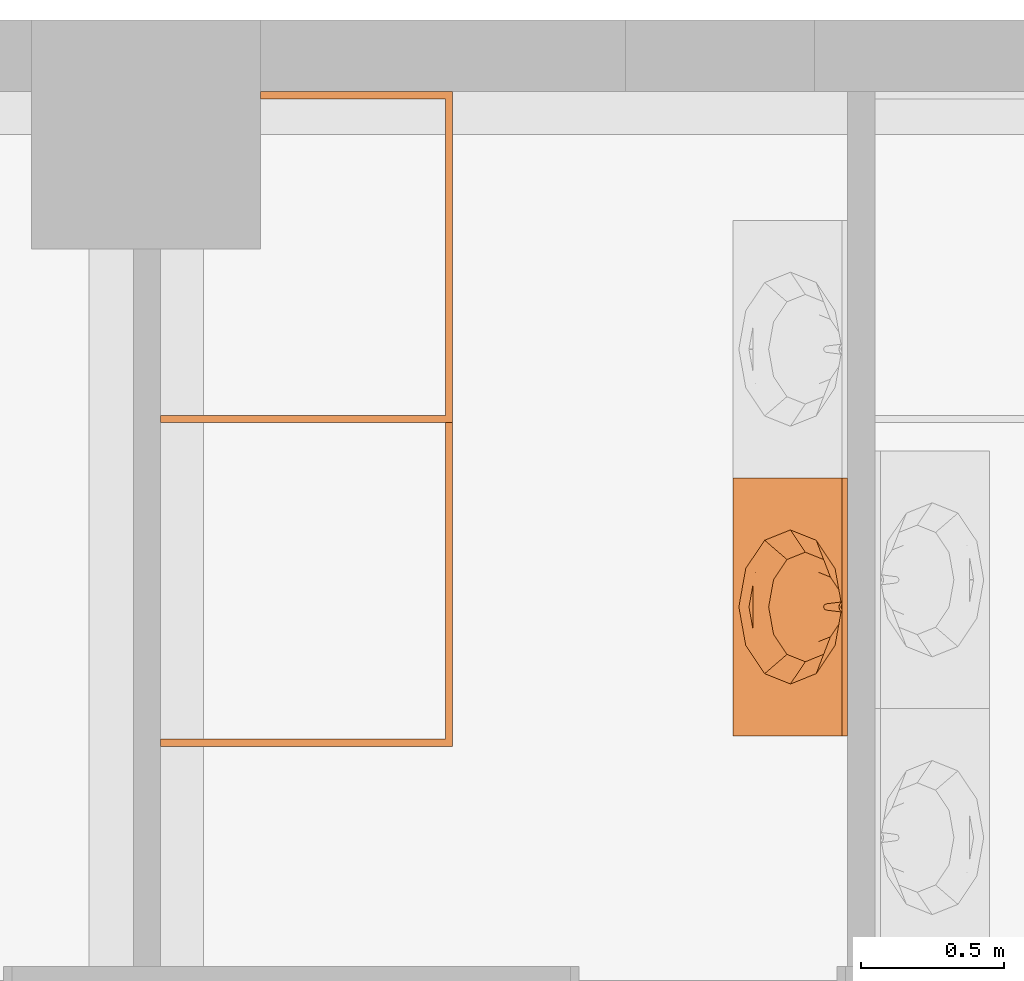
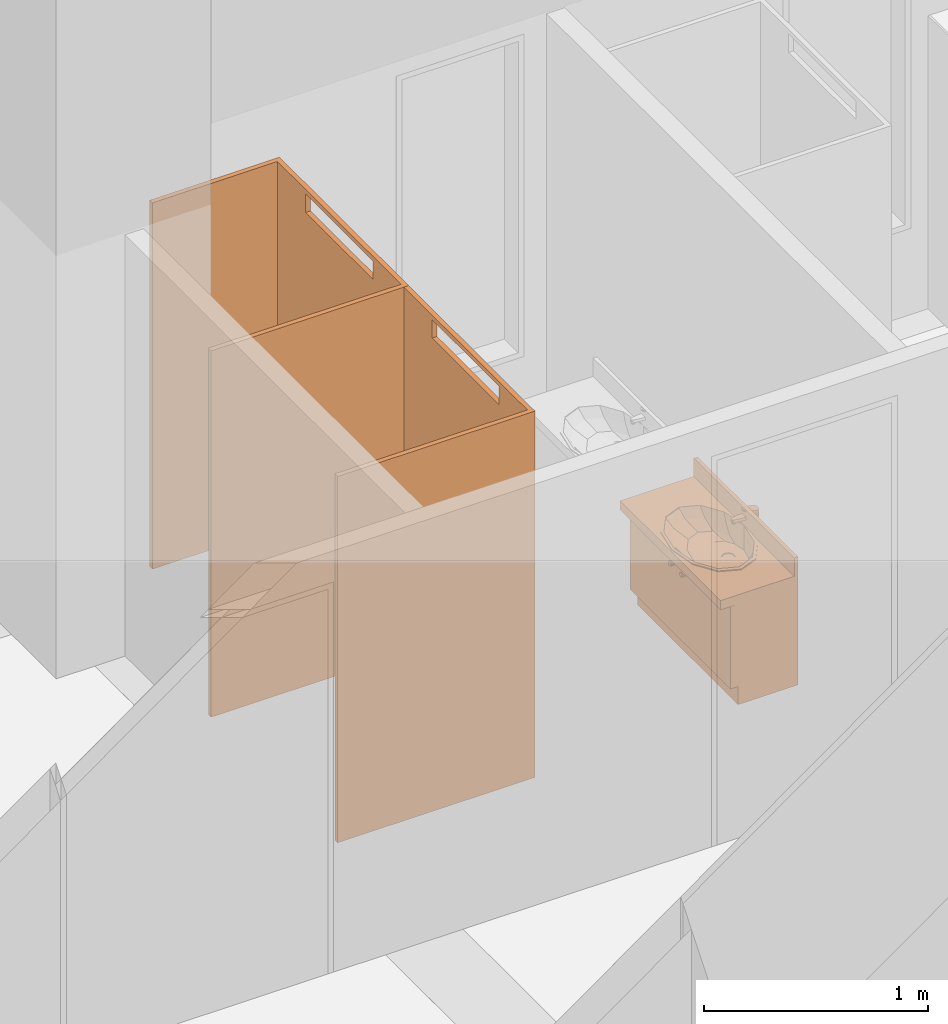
# One storey, part 10 of 14: 3 proxies.
"""IFC2X3 building model written with IfcOpenShell, lengths in millimetres."""

from ifc_helpers import new_model, entity, si_unit, converted_unit, direction, frame, origin_with_axes, place, context, project, spatial, open_shell, faceted_brep, surface_model, material, element, save


model = new_model("IFC2X3")

# Units and contexts
model_context = context("Model", 3, precision=1e-05, world=origin_with_axes(), true_north=direction((0.0, 1.0)))
ifc_project = project(units=[si_unit("LENGTHUNIT", "METRE", prefix="MILLI"), si_unit("AREAUNIT", "SQUARE_METRE"), si_unit("VOLUMEUNIT", "CUBIC_METRE"), converted_unit("PLANEANGLEUNIT", "DEGREE", entity("IfcPlaneAngleMeasure", 0.017453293), si_unit("PLANEANGLEUNIT", "RADIAN"), dimensions=[0, 0, 0, 0, 0, 0, 0]), si_unit("SOLIDANGLEUNIT", "STERADIAN"), si_unit("MASSUNIT", "GRAM"), si_unit("TIMEUNIT", "SECOND"), si_unit("THERMODYNAMICTEMPERATUREUNIT", "DEGREE_CELSIUS"), si_unit("LUMINOUSINTENSITYUNIT", "LUMEN")], contexts=[model_context])

# Site, building, storey
site_placement = place(None, origin_with_axes())
site = spatial("IfcSite", under=ifc_project, at=site_placement, Name="\x83T\x83C\x83g", CompositionType="ELEMENT")
building_placement = place(site_placement, origin_with_axes())
building = spatial("IfcBuilding", under=site, at=building_placement, Name="Daitec-Sample 201208", CompositionType="ELEMENT")
storey_placement = place(building_placement, frame((0.0, 0.0, 4000.0), z_axis=(0.0, 0.0, 1.0), x_axis=(1.0, 0.0, 0.0)))
storey = spatial("IfcBuildingStorey", under=building, at=storey_placement, Name="2F", CompositionType="ELEMENT", Elevation=4000.0)

# Proxies
ifc_material = material(Name="\x94w\x8ci")
proxy_1_placement = place(storey_placement, frame((19570.72, 21263.708, 0.0), z_axis=(0.0, 0.0, 1.0), x_axis=(0.0, 1.0, 0.0)))
element("IfcBuildingElementProxy", 1, at=proxy_1_placement, inside=storey, material=ifc_material, Name="O0", CompositionType="ELEMENT", context=model_context, shape_type="Brep", body=[
    faceted_brep([(0.0, 0.0, 200.0), (277.82295, 0.0, 200.0), (277.82295, 0.0, 1975.0), (0.0, 0.0, 1975.0), (0.0, 25.0, 200.0), (277.82295, 25.0, 200.0), (277.82295, 25.0, 1975.0), (0.0, 25.0, 1975.0)], [[[0, 1, 2, 3]], [[0, 4, 5, 1]], [[1, 5, 6, 2]], [[3, 2, 6, 7]], [[4, 0, 3, 7]], [[5, 4, 7, 6]]]),
    faceted_brep([(877.82295, 0.0, 200.0), (1155.6459, 0.0, 200.0), (1155.6459, 0.0, 1975.0), (877.82295, 0.0, 1975.0), (877.82295, 25.0, 200.0), (1155.6459, 25.0, 200.0), (1155.6459, 25.0, 1975.0), (877.82295, 25.0, 1975.0)], [[[0, 1, 2, 3]], [[0, 4, 5, 1]], [[1, 5, 6, 2]], [[3, 2, 6, 7]], [[4, 0, 3, 7]], [[5, 4, 7, 6]]]),
    faceted_brep([(0.0, 0.0, 0.0), (277.82295, 0.0, 0.0), (277.82295, 0.0, 200.0), (0.0, 0.0, 200.0), (0.0, 25.0, 0.0), (277.82295, 25.0, 0.0), (277.82295, 25.0, 200.0), (0.0, 25.0, 200.0)], [[[0, 1, 2, 3]], [[0, 4, 5, 1]], [[1, 5, 6, 2]], [[3, 2, 6, 7]], [[4, 0, 3, 7]], [[5, 4, 7, 6]]]),
    faceted_brep([(877.82295, 0.0, 0.0), (1155.6459, 0.0, 0.0), (1155.6459, 0.0, 200.0), (877.82295, 0.0, 200.0), (877.82295, 25.0, 0.0), (1155.6459, 25.0, 0.0), (1155.6459, 25.0, 200.0), (877.82295, 25.0, 200.0)], [[[0, 1, 2, 3]], [[0, 4, 5, 1]], [[1, 5, 6, 2]], [[3, 2, 6, 7]], [[4, 0, 3, 7]], [[5, 4, 7, 6]]]),
    faceted_brep([(1155.6459, 0.0, 1975.0), (1155.6459, 25.0, 1975.0), (1155.6459, 25.0, 2000.0), (1155.6459, 0.0, 2000.0), (0.0, 0.0, 1975.0), (0.0, 25.0, 1975.0), (0.0, 25.0, 2000.0), (0.0, 0.0, 2000.0)], [[[0, 1, 2, 3]], [[0, 4, 5, 1]], [[1, 5, 6, 2]], [[3, 2, 6, 7]], [[4, 0, 3, 7]], [[5, 4, 7, 6]]]),
    faceted_brep([(277.82295, 0.0, 50.0), (877.82295, 0.0, 50.0), (877.82295, 0.0, 1875.0), (277.82295, 0.0, 1875.0), (277.82295, 25.0, 50.0), (877.82295, 25.0, 50.0), (877.82295, 25.0, 1875.0), (277.82295, 25.0, 1875.0)], [[[0, 1, 2, 3]], [[0, 4, 5, 1]], [[1, 5, 6, 2]], [[3, 2, 6, 7]], [[4, 0, 3, 7]], [[5, 4, 7, 6]]]),
    faceted_brep([(25.0, 25.0, 0.0), (25.0, 1019.9703, 0.0), (25.0, 1019.9703, 2000.0), (25.0, 25.0, 2000.0), (0.0, 25.0, 0.0), (0.0, 1019.9703, 0.0), (0.0, 1019.9703, 2000.0), (0.0, 25.0, 2000.0)], [[[0, 1, 2, 3]], [[0, 4, 5, 1]], [[1, 5, 6, 2]], [[3, 2, 6, 7]], [[4, 0, 3, 7]], [[5, 4, 7, 6]]]),
    faceted_brep([(25.0, 25.0, 1775.0), (25.0, 1019.9703, 1775.0), (25.0, 1019.9703, 1800.0), (25.0, 25.0, 1800.0), (0.0, 25.0, 1775.0), (0.0, 1019.9703, 1775.0), (0.0, 1019.9703, 1800.0), (0.0, 25.0, 1800.0)], [[[0, 1, 2, 3]], [[0, 4, 5, 1]], [[1, 5, 6, 2]], [[3, 2, 6, 7]], [[4, 0, 3, 7]], [[5, 4, 7, 6]]]),
    faceted_brep([(1155.6459, 25.0, 0.0), (1155.6459, 1019.9703, 0.0), (1155.6459, 1019.9703, 2000.0), (1155.6459, 25.0, 2000.0), (1130.6459, 25.0, 0.0), (1130.6459, 1019.9703, 0.0), (1130.6459, 1019.9703, 2000.0), (1130.6459, 25.0, 2000.0)], [[[0, 1, 2, 3]], [[0, 4, 5, 1]], [[1, 5, 6, 2]], [[3, 2, 6, 7]], [[4, 0, 3, 7]], [[5, 4, 7, 6]]]),
    faceted_brep([(1155.6459, 25.0, 1775.0), (1155.6459, 1019.9703, 1775.0), (1155.6459, 1019.9703, 1800.0), (1155.6459, 25.0, 1800.0), (1130.6459, 25.0, 1775.0), (1130.6459, 1019.9703, 1775.0), (1130.6459, 1019.9703, 1800.0), (1130.6459, 25.0, 1800.0)], [[[0, 1, 2, 3]], [[0, 4, 5, 1]], [[1, 5, 6, 2]], [[3, 2, 6, 7]], [[4, 0, 3, 7]], [[5, 4, 7, 6]]]),
])
proxy_2_placement = place(storey_placement, frame((19570.72, 22394.354, 0.0), z_axis=(0.0, 0.0, 1.0), x_axis=(0.0, 1.0, 0.0)))
element("IfcBuildingElementProxy", 2, at=proxy_2_placement, inside=storey, material=ifc_material, Name="O0", CompositionType="ELEMENT", context=model_context, shape_type="Brep", body=[
    faceted_brep([(0.0, 0.0, 200.0), (277.82295, 0.0, 200.0), (277.82295, 0.0, 1975.0), (0.0, 0.0, 1975.0), (0.0, 25.0, 200.0), (277.82295, 25.0, 200.0), (277.82295, 25.0, 1975.0), (0.0, 25.0, 1975.0)], [[[0, 1, 2, 3]], [[0, 4, 5, 1]], [[1, 5, 6, 2]], [[3, 2, 6, 7]], [[4, 0, 3, 7]], [[5, 4, 7, 6]]]),
    faceted_brep([(877.82295, 0.0, 200.0), (1155.6459, 0.0, 200.0), (1155.6459, 0.0, 1975.0), (877.82295, 0.0, 1975.0), (877.82295, 25.0, 200.0), (1155.6459, 25.0, 200.0), (1155.6459, 25.0, 1975.0), (877.82295, 25.0, 1975.0)], [[[0, 1, 2, 3]], [[0, 4, 5, 1]], [[1, 5, 6, 2]], [[3, 2, 6, 7]], [[4, 0, 3, 7]], [[5, 4, 7, 6]]]),
    faceted_brep([(0.0, 0.0, 0.0), (277.82295, 0.0, 0.0), (277.82295, 0.0, 200.0), (0.0, 0.0, 200.0), (0.0, 25.0, 0.0), (277.82295, 25.0, 0.0), (277.82295, 25.0, 200.0), (0.0, 25.0, 200.0)], [[[0, 1, 2, 3]], [[0, 4, 5, 1]], [[1, 5, 6, 2]], [[3, 2, 6, 7]], [[4, 0, 3, 7]], [[5, 4, 7, 6]]]),
    faceted_brep([(877.82295, 0.0, 0.0), (1155.6459, 0.0, 0.0), (1155.6459, 0.0, 200.0), (877.82295, 0.0, 200.0), (877.82295, 25.0, 0.0), (1155.6459, 25.0, 0.0), (1155.6459, 25.0, 200.0), (877.82295, 25.0, 200.0)], [[[0, 1, 2, 3]], [[0, 4, 5, 1]], [[1, 5, 6, 2]], [[3, 2, 6, 7]], [[4, 0, 3, 7]], [[5, 4, 7, 6]]]),
    faceted_brep([(1155.6459, 0.0, 1975.0), (1155.6459, 25.0, 1975.0), (1155.6459, 25.0, 2000.0), (1155.6459, 0.0, 2000.0), (0.0, 0.0, 1975.0), (0.0, 25.0, 1975.0), (0.0, 25.0, 2000.0), (0.0, 0.0, 2000.0)], [[[0, 1, 2, 3]], [[0, 4, 5, 1]], [[1, 5, 6, 2]], [[3, 2, 6, 7]], [[4, 0, 3, 7]], [[5, 4, 7, 6]]]),
    faceted_brep([(277.82295, 0.0, 50.0), (877.82295, 0.0, 50.0), (877.82295, 0.0, 1875.0), (277.82295, 0.0, 1875.0), (277.82295, 25.0, 50.0), (877.82295, 25.0, 50.0), (877.82295, 25.0, 1875.0), (277.82295, 25.0, 1875.0)], [[[0, 1, 2, 3]], [[0, 4, 5, 1]], [[1, 5, 6, 2]], [[3, 2, 6, 7]], [[4, 0, 3, 7]], [[5, 4, 7, 6]]]),
    faceted_brep([(25.0, 25.0, 0.0), (25.0, 1019.9703, 0.0), (25.0, 1019.9703, 2000.0), (25.0, 25.0, 2000.0), (0.0, 25.0, 0.0), (0.0, 1019.9703, 0.0), (0.0, 1019.9703, 2000.0), (0.0, 25.0, 2000.0)], [[[0, 1, 2, 3]], [[0, 4, 5, 1]], [[1, 5, 6, 2]], [[3, 2, 6, 7]], [[4, 0, 3, 7]], [[5, 4, 7, 6]]]),
    faceted_brep([(25.0, 25.0, 1775.0), (25.0, 1019.9703, 1775.0), (25.0, 1019.9703, 1800.0), (25.0, 25.0, 1800.0), (0.0, 25.0, 1775.0), (0.0, 1019.9703, 1775.0), (0.0, 1019.9703, 1800.0), (0.0, 25.0, 1800.0)], [[[0, 1, 2, 3]], [[0, 4, 5, 1]], [[1, 5, 6, 2]], [[3, 2, 6, 7]], [[4, 0, 3, 7]], [[5, 4, 7, 6]]]),
    faceted_brep([(1155.6459, 25.0, 0.0), (1155.6459, 670.22795, 0.0), (1155.6459, 670.22795, 2000.0), (1155.6459, 25.0, 2000.0), (1130.6459, 25.0, 0.0), (1130.6459, 670.22795, 0.0), (1130.6459, 670.22795, 2000.0), (1130.6459, 25.0, 2000.0)], [[[0, 1, 2, 3]], [[0, 4, 5, 1]], [[1, 5, 6, 2]], [[3, 2, 6, 7]], [[4, 0, 3, 7]], [[5, 4, 7, 6]]]),
    faceted_brep([(1155.6459, 25.0, 1775.0), (1155.6459, 670.22795, 1775.0), (1155.6459, 670.22795, 1800.0), (1155.6459, 25.0, 1800.0), (1130.6459, 25.0, 1775.0), (1130.6459, 670.22795, 1775.0), (1130.6459, 670.22795, 1800.0), (1130.6459, 25.0, 1800.0)], [[[0, 1, 2, 3]], [[0, 4, 5, 1]], [[1, 5, 6, 2]], [[3, 2, 6, 7]], [[4, 0, 3, 7]], [[5, 4, 7, 6]]]),
])
proxy_3_placement = place(storey_placement, frame((20550.071, 21300.379, 0.0), z_axis=(0.0, 0.0, 1.0), x_axis=(0.0, -1.0, 0.0)))
element("IfcBuildingElementProxy", 3, at=proxy_3_placement, inside=storey, material=ifc_material, Name="O2", context=model_context, shape_type="Brep", body=[
    faceted_brep([(0.0, 90.0, 0.0), (0.0, 90.0, 100.0), (-900.0, 90.0, 100.0), (-900.0, 90.0, 0.0), (0.0, 400.0, 0.0), (0.0, 400.0, 100.0), (-900.0, 400.0, 100.0), (-900.0, 400.0, 0.0)], [[[0, 1, 2, 3]], [[4, 5, 1, 0]], [[1, 5, 6, 2]], [[3, 2, 6, 7]], [[0, 3, 7, 4]], [[7, 6, 5, 4]]]),
    faceted_brep([(0.0, 70.0, 100.0), (0.0, 70.0, 120.0), (-20.0, 70.0, 120.0), (-20.0, 70.0, 100.0), (0.0, 400.0, 100.0), (0.0, 400.0, 120.0), (-20.0, 400.0, 120.0), (-880.0, 400.0, 120.0), (-900.0, 400.0, 120.0), (-900.0, 70.0, 120.0), (-880.0, 70.0, 120.0), (-880.0, 70.0, 100.0), (-900.0, 70.0, 100.0), (-900.0, 400.0, 100.0), (-880.0, 400.0, 100.0), (-20.0, 400.0, 100.0)], [[[0, 1, 2, 3]], [[4, 5, 1, 0]], [[1, 5, 6, 7, 8, 9, 10, 2]], [[3, 2, 10, 11]], [[0, 3, 11, 12, 13, 14, 15, 4]], [[15, 6, 5, 4]], [[14, 7, 6, 15]], [[13, 8, 7, 14]], [[12, 9, 8, 13]], [[11, 10, 9, 12]]]),
    faceted_brep([(0.0, 70.0, 120.0), (0.0, 70.0, 550.0), (-20.0, 70.0, 550.0), (-20.0, 70.0, 120.0), (0.0, 400.0, 120.0), (0.0, 400.0, 550.0), (-900.0, 400.0, 550.0), (-900.0, 70.0, 550.0), (-880.0, 70.0, 550.0), (-880.0, 380.0, 550.0), (-20.0, 380.0, 550.0), (-20.0, 380.0, 120.0), (-880.0, 380.0, 120.0), (-880.0, 70.0, 120.0), (-900.0, 70.0, 120.0), (-900.0, 400.0, 120.0)], [[[0, 1, 2, 3]], [[4, 5, 1, 0]], [[1, 5, 6, 7, 8, 9, 10, 2]], [[3, 2, 10, 11]], [[0, 3, 11, 12, 13, 14, 15, 4]], [[15, 6, 5, 4]], [[14, 7, 6, 15]], [[13, 8, 7, 14]], [[12, 9, 8, 13]], [[11, 10, 9, 12]]]),
    faceted_brep([(-880.0, 70.0, 223.33333), (-880.0, 70.0, 243.33333), (-880.0, 380.0, 243.33333), (-880.0, 380.0, 223.33333), (-20.0, 70.0, 223.33333), (-20.0, 70.0, 243.33333), (-20.0, 380.0, 243.33333), (-20.0, 380.0, 223.33333)], [[[0, 1, 2, 3]], [[4, 5, 1, 0]], [[1, 5, 6, 2]], [[3, 2, 6, 7]], [[0, 3, 7, 4]], [[7, 6, 5, 4]]]),
    faceted_brep([(-880.0, 70.0, 366.66667), (-880.0, 70.0, 386.66667), (-880.0, 380.0, 386.66667), (-880.0, 380.0, 366.66667), (-20.0, 70.0, 366.66667), (-20.0, 70.0, 386.66667), (-20.0, 380.0, 386.66667), (-20.0, 380.0, 366.66667)], [[[0, 1, 2, 3]], [[4, 5, 1, 0]], [[1, 5, 6, 2]], [[3, 2, 6, 7]], [[0, 3, 7, 4]], [[7, 6, 5, 4]]]),
    faceted_brep([(0.0, 400.0, 550.0), (0.0, 0.0, 550.0), (-900.0, 0.0, 550.0), (-900.0, 400.0, 550.0), (-216.17314, 290.0, 550.0), (-315.0, 355.88457, 550.0), (-450.0, 380.0, 550.0), (-585.0, 355.88457, 550.0), (-683.82686, 290.0, 550.0), (-720.0, 200.0, 550.0), (-683.82686, 110.0, 550.0), (-585.0, 44.115427, 550.0), (-450.0, 20.0, 550.0), (-315.0, 44.115427, 550.0), (-216.17314, 110.0, 550.0), (-180.0, 200.0, 550.0), (0.0, 400.0, 600.0), (0.0, 0.0, 600.0), (-900.0, 0.0, 600.0), (-900.0, 400.0, 600.0), (-216.17314, 290.0, 600.0), (-315.0, 355.88457, 600.0), (-450.0, 380.0, 600.0), (-585.0, 355.88457, 600.0), (-683.82686, 290.0, 600.0), (-720.0, 200.0, 600.0), (-683.82686, 110.0, 600.0), (-585.0, 44.115427, 600.0), (-450.0, 20.0, 600.0), (-315.0, 44.115427, 600.0), (-216.17314, 110.0, 600.0), (-180.0, 200.0, 600.0)], [[[0, 1, 2, 3], [4, 5, 6, 7, 8, 9, 10, 11, 12, 13, 14, 15]], [[1, 0, 16, 17]], [[2, 1, 17, 18]], [[3, 2, 18, 19]], [[0, 3, 19, 16]], [[20, 21, 5, 4]], [[21, 22, 6, 5]], [[22, 23, 7, 6]], [[23, 24, 8, 7]], [[24, 25, 9, 8]], [[25, 26, 10, 9]], [[26, 27, 11, 10]], [[27, 28, 12, 11]], [[28, 29, 13, 12]], [[29, 30, 14, 13]], [[30, 31, 15, 14]], [[31, 20, 4, 15]], [[18, 17, 16, 19], [24, 23, 22, 21, 20, 31, 30, 29, 28, 27, 26, 25]]]),
    faceted_brep([(0.0, 380.0, 600.0), (0.0, 380.0, 700.0), (-900.0, 380.0, 700.0), (-900.0, 380.0, 600.0), (0.0, 400.0, 600.0), (0.0, 400.0, 700.0), (-900.0, 400.0, 700.0), (-900.0, 400.0, 600.0)], [[[0, 1, 2, 3]], [[4, 5, 1, 0]], [[1, 5, 6, 2]], [[3, 2, 6, 7]], [[0, 3, 7, 4]], [[7, 6, 5, 4]]]),
    faceted_brep([(-739.0, 200.0, 605.0), (-700.28134, 296.69145, 605.0), (-700.28134, 296.69145, 600.0), (-739.0, 200.0, 600.0), (-700.28134, 103.30855, 605.0), (-594.5, 32.525496, 605.0), (-450.0, 6.6171004, 605.0), (-305.5, 32.525496, 605.0), (-199.71866, 103.30855, 605.0), (-161.0, 200.0, 605.0), (-199.71866, 296.69145, 605.0), (-305.5, 367.4745, 605.0), (-450.0, 393.3829, 605.0), (-594.5, 367.4745, 605.0), (-719.0, 200.0, 605.0), (-682.96083, 290.0, 605.0), (-584.5, 355.88457, 605.0), (-450.0, 380.0, 605.0), (-315.5, 355.88457, 605.0), (-217.03917, 290.0, 605.0), (-181.0, 200.0, 605.0), (-217.03917, 110.0, 605.0), (-315.5, 44.115427, 605.0), (-450.0, 20.0, 605.0), (-584.5, 44.115427, 605.0), (-682.96083, 110.0, 605.0), (-594.5, 367.4745, 600.0), (-450.0, 393.3829, 600.0), (-305.5, 367.4745, 600.0), (-199.71866, 296.69145, 600.0), (-161.0, 200.0, 600.0), (-199.71866, 103.30855, 600.0), (-305.5, 32.525496, 600.0), (-450.0, 6.6171004, 600.0), (-594.5, 32.525496, 600.0), (-700.28134, 103.30855, 600.0), (-719.0, 200.0, 600.0), (-682.96083, 110.0, 600.0), (-584.5, 44.115427, 600.0), (-450.0, 20.0, 600.0), (-315.5, 44.115427, 600.0), (-217.03917, 110.0, 600.0), (-181.0, 200.0, 600.0), (-217.03917, 290.0, 600.0), (-315.5, 355.88457, 600.0), (-450.0, 380.0, 600.0), (-584.5, 355.88457, 600.0), (-682.96083, 290.0, 600.0)], [[[0, 1, 2, 3]], [[0, 4, 5, 6, 7, 8, 9, 10, 11, 12, 13, 1], [14, 15, 16, 17, 18, 19, 20, 21, 22, 23, 24, 25]], [[1, 13, 26, 2]], [[3, 2, 26, 27, 28, 29, 30, 31, 32, 33, 34, 35], [36, 37, 38, 39, 40, 41, 42, 43, 44, 45, 46, 47]], [[4, 0, 3, 35]], [[5, 4, 35, 34]], [[6, 5, 34, 33]], [[7, 6, 33, 32]], [[8, 7, 32, 31]], [[9, 8, 31, 30]], [[10, 9, 30, 29]], [[11, 10, 29, 28]], [[12, 11, 28, 27]], [[13, 12, 27, 26]], [[15, 14, 36, 47]], [[16, 15, 47, 46]], [[17, 16, 46, 45]], [[18, 17, 45, 44]], [[19, 18, 44, 43]], [[20, 19, 43, 42]], [[21, 20, 42, 41]], [[22, 21, 41, 40]], [[23, 22, 40, 39]], [[24, 23, 39, 38]], [[25, 24, 38, 37]], [[14, 25, 37, 36]]]),
    surface_model("IfcShellBasedSurfaceModel", [(-450.0, 380.0, 600.0), (-584.5, 355.88457, 600.0), (-571.05, 358.29612, 548.0), (-450.0, 380.0, 548.0), (-682.96083, 290.0, 600.0), (-659.66475, 299.0, 548.0), (-315.5, 355.88457, 600.0), (-328.95, 358.29612, 548.0), (-719.0, 200.0, 600.0), (-692.1, 218.0, 548.0), (-217.03917, 290.0, 600.0), (-240.33525, 299.0, 548.0), (-682.96083, 110.0, 600.0), (-659.66475, 137.0, 548.0), (-181.0, 200.0, 600.0), (-207.9, 218.0, 548.0), (-584.5, 44.115427, 600.0), (-571.05, 77.703885, 548.0), (-217.03917, 110.0, 600.0), (-240.33525, 137.0, 548.0), (-450.0, 20.0, 600.0), (-450.0, 56.0, 548.0), (-315.5, 44.115427, 600.0), (-328.95, 77.703885, 548.0)], [open_shell([[[0, 1, 2, 3]], [[1, 4, 5, 2]], [[6, 0, 3, 7]], [[4, 8, 9, 5]], [[10, 6, 7, 11]], [[8, 12, 13, 9]], [[14, 10, 11, 15]], [[12, 16, 17, 13]], [[18, 14, 15, 19]], [[16, 20, 21, 17]], [[22, 18, 19, 23]], [[20, 22, 23, 21]]])]),
    surface_model("IfcShellBasedSurfaceModel", [(-450.0, 380.0, 548.0), (-571.05, 358.29612, 548.0), (-545.6295, 362.85393, 496.0), (-450.0, 380.0, 496.0), (-659.66475, 299.0, 548.0), (-615.63515, 316.01, 496.0), (-328.95, 358.29612, 548.0), (-354.3705, 362.85393, 496.0), (-692.1, 218.0, 548.0), (-641.259, 252.02, 496.0), (-240.33525, 299.0, 548.0), (-284.36485, 316.01, 496.0), (-659.66475, 137.0, 548.0), (-615.63515, 188.03, 496.0), (-207.9, 218.0, 548.0), (-258.741, 252.02, 496.0), (-571.05, 77.703885, 548.0), (-545.6295, 141.18607, 496.0), (-240.33525, 137.0, 548.0), (-284.36485, 188.03, 496.0), (-450.0, 56.0, 548.0), (-450.0, 124.04, 496.0), (-328.95, 77.703885, 548.0), (-354.3705, 141.18607, 496.0)], [open_shell([[[0, 1, 2, 3]], [[1, 4, 5, 2]], [[6, 0, 3, 7]], [[4, 8, 9, 5]], [[10, 6, 7, 11]], [[8, 12, 13, 9]], [[14, 10, 11, 15]], [[12, 16, 17, 13]], [[18, 14, 15, 19]], [[16, 20, 21, 17]], [[22, 18, 19, 23]], [[20, 22, 23, 21]]])]),
    surface_model("IfcShellBasedSurfaceModel", [(-450.0, 380.0, 496.0), (-545.6295, 362.85393, 496.0), (-510.24659, 369.19798, 470.0), (-450.0, 380.0, 470.0), (-615.63515, 316.01, 496.0), (-554.35015, 339.6863, 470.0), (-354.3705, 362.85393, 496.0), (-389.75341, 369.19798, 470.0), (-641.259, 252.02, 496.0), (-570.49317, 299.3726, 470.0), (-284.36485, 316.01, 496.0), (-345.64985, 339.6863, 470.0), (-615.63515, 188.03, 496.0), (-554.35015, 259.0589, 470.0), (-258.741, 252.02, 496.0), (-329.50683, 299.3726, 470.0), (-545.6295, 141.18607, 496.0), (-510.24659, 229.54722, 470.0), (-284.36485, 188.03, 496.0), (-345.64985, 259.0589, 470.0), (-450.0, 124.04, 496.0), (-450.0, 218.7452, 470.0), (-354.3705, 141.18607, 496.0), (-389.75341, 229.54722, 470.0)], [open_shell([[[0, 1, 2, 3]], [[1, 4, 5, 2]], [[6, 0, 3, 7]], [[4, 8, 9, 5]], [[10, 6, 7, 11]], [[8, 12, 13, 9]], [[14, 10, 11, 15]], [[12, 16, 17, 13]], [[18, 14, 15, 19]], [[16, 20, 21, 17]], [[22, 18, 19, 23]], [[20, 22, 23, 21]]])]),
    surface_model("IfcShellBasedSurfaceModel", [(-450.0, 380.0, 470.0), (-510.24659, 369.19798, 470.0), (-465.0, 325.35336, 463.0), (-475.98076, 314.3726, 463.0), (-450.0, 329.3726, 463.0), (-554.35015, 339.6863, 470.0), (-389.75341, 369.19798, 470.0), (-480.0, 299.3726, 463.0), (-435.0, 325.35336, 463.0), (-570.49317, 299.3726, 470.0), (-345.64985, 339.6863, 470.0), (-475.98076, 284.3726, 463.0), (-424.01924, 314.3726, 463.0), (-554.35015, 259.0589, 470.0), (-329.50683, 299.3726, 470.0), (-465.0, 273.39184, 463.0), (-420.0, 299.3726, 463.0), (-510.24659, 229.54722, 470.0), (-345.64985, 259.0589, 470.0), (-450.0, 269.3726, 463.0), (-424.01924, 284.3726, 463.0), (-450.0, 218.7452, 470.0), (-389.75341, 229.54722, 470.0), (-435.0, 273.39184, 463.0)], [open_shell([[[0, 1, 2]], [[1, 3, 2]], [[0, 2, 4]], [[1, 5, 3]], [[6, 0, 4]], [[5, 7, 3]], [[6, 4, 8]], [[5, 9, 7]], [[10, 6, 8]], [[9, 11, 7]], [[10, 8, 12]], [[9, 13, 11]], [[14, 10, 12]], [[13, 15, 11]], [[14, 12, 16]], [[13, 17, 15]], [[18, 14, 16]], [[17, 19, 15]], [[18, 16, 20]], [[17, 21, 19]], [[22, 18, 20]], [[21, 23, 19]], [[22, 20, 23]], [[21, 22, 23]]])]),
    surface_model("IfcShellBasedSurfaceModel", [(-480.0, 299.3726, 463.0), (-475.98076, 314.3726, 463.0), (-475.98076, 314.3726, 458.0), (-480.0, 299.3726, 458.0), (-465.0, 325.35336, 463.0), (-465.0, 325.35336, 458.0), (-450.0, 329.3726, 458.0), (-435.0, 325.35336, 458.0), (-424.01924, 314.3726, 458.0), (-420.0, 299.3726, 458.0), (-424.01924, 284.3726, 458.0), (-435.0, 273.39184, 458.0), (-450.0, 269.3726, 458.0), (-465.0, 273.39184, 458.0), (-475.98076, 284.3726, 458.0), (-475.98076, 284.3726, 463.0), (-450.0, 329.3726, 463.0), (-435.0, 325.35336, 463.0), (-424.01924, 314.3726, 463.0), (-420.0, 299.3726, 463.0), (-424.01924, 284.3726, 463.0), (-435.0, 273.39184, 463.0), (-450.0, 269.3726, 463.0), (-465.0, 273.39184, 463.0)], [open_shell([[[0, 1, 2, 3]], [[1, 4, 5, 2]], [[3, 2, 5, 6, 7, 8, 9, 10, 11, 12, 13, 14]], [[15, 0, 3, 14]], [[4, 16, 6, 5]], [[16, 17, 7, 6]], [[17, 18, 8, 7]], [[18, 19, 9, 8]], [[19, 20, 10, 9]], [[20, 21, 11, 10]], [[21, 22, 12, 11]], [[22, 23, 13, 12]], [[23, 15, 14, 13]]])]),
    faceted_brep([(-462.5, 451.65064, 600.0), (-460.58732, 448.33778, 676.50709), (-450.0, 451.20192, 675.96154), (-450.0, 455.0, 600.0), (-471.65064, 442.5, 600.0), (-468.27355, 440.55024, 677.99043), (-471.0, 430.0, 680.0), (-468.10034, 419.54976, 681.99052), (-460.41411, 411.96224, 683.43576), (-450.0, 409.19811, 683.96226), (-439.58589, 411.96224, 683.43576), (-431.89966, 419.54976, 681.99052), (-429.0, 430.0, 680.0), (-431.72645, 440.55024, 677.99043), (-439.41268, 448.33778, 676.50709), (-437.5, 451.65064, 600.0), (-428.34936, 442.5, 600.0), (-425.0, 430.0, 600.0), (-428.34936, 417.5, 600.0), (-437.5, 408.34936, 600.0), (-450.0, 405.0, 600.0), (-462.5, 408.34936, 600.0), (-471.65064, 417.5, 600.0), (-475.0, 430.0, 600.0)], [[[0, 1, 2, 3]], [[4, 5, 1, 0]], [[1, 5, 6, 7, 8, 9, 10, 11, 12, 13, 14, 2]], [[3, 2, 14, 15]], [[0, 3, 15, 16, 17, 18, 19, 20, 21, 22, 23, 4]], [[23, 6, 5, 4]], [[22, 7, 6, 23]], [[21, 8, 7, 22]], [[20, 9, 8, 21]], [[19, 10, 9, 20]], [[18, 11, 10, 19]], [[17, 12, 11, 18]], [[16, 13, 12, 17]], [[15, 14, 13, 16]]]),
    faceted_brep([(-459.0, 327.0, 635.0), (-459.0, 327.0, 645.0), (-457.79423, 331.5, 645.0), (-457.79423, 331.5, 635.0), (-457.79423, 322.5, 635.0), (-457.79423, 322.5, 645.0), (-454.5, 319.20577, 645.0), (-450.0, 318.0, 645.0), (-445.5, 319.20577, 645.0), (-442.20577, 322.5, 645.0), (-441.0, 327.0, 645.0), (-442.20577, 331.5, 645.0), (-445.5, 334.79423, 645.0), (-450.0, 336.0, 645.0), (-454.5, 334.79423, 645.0), (-454.5, 334.79423, 635.0), (-450.0, 336.0, 635.0), (-445.5, 334.79423, 635.0), (-442.20577, 331.5, 635.0), (-441.0, 327.0, 635.0), (-442.20577, 322.5, 635.0), (-445.5, 319.20577, 635.0), (-450.0, 318.0, 635.0), (-454.5, 319.20577, 635.0)], [[[0, 1, 2, 3]], [[4, 5, 1, 0]], [[1, 5, 6, 7, 8, 9, 10, 11, 12, 13, 14, 2]], [[3, 2, 14, 15]], [[0, 3, 15, 16, 17, 18, 19, 20, 21, 22, 23, 4]], [[23, 6, 5, 4]], [[22, 7, 6, 23]], [[21, 8, 7, 22]], [[20, 9, 8, 21]], [[19, 10, 9, 20]], [[18, 11, 10, 19]], [[17, 12, 11, 18]], [[16, 13, 12, 17]], [[15, 14, 13, 16]]]),
    faceted_brep([(-440.97112, 320.71681, 660.0), (-439.08801, 325.61163, 660.0), (-426.1946, 426.9501, 660.0), (-428.27219, 440.19321, 660.0), (-437.12828, 450.2563, 660.0), (-450.0, 453.99998, 660.0), (-462.87172, 450.2563, 660.0), (-471.72781, 440.1932, 660.0), (-473.8054, 426.9501, 660.0), (-460.912, 325.6117, 660.0), (-459.02892, 320.71687, 660.0), (-455.09339, 317.25031, 660.0), (-450.00004, 316.00004, 660.0), (-444.90668, 317.25027, 660.0), (-469.05256, 441.0, 660.0), (-461.0, 449.05256, 660.0), (-450.0, 452.0, 660.0), (-439.0, 449.05256, 660.0), (-430.94744, 441.0, 660.0), (-428.0, 430.0, 660.0), (-430.94744, 419.0, 660.0), (-439.0, 410.94744, 660.0), (-450.0, 408.0, 660.0), (-461.0, 410.94744, 660.0), (-469.05256, 419.0, 660.0), (-472.0, 430.0, 660.0), (-440.97112, 320.71681, 645.0), (-439.08801, 325.61163, 645.0), (-426.1946, 426.9501, 645.0), (-428.27219, 440.19321, 645.0), (-437.12828, 450.2563, 645.0), (-450.0, 453.99998, 645.0), (-462.87172, 450.2563, 645.0), (-471.72781, 440.1932, 645.0), (-473.8054, 426.9501, 645.0), (-460.912, 325.6117, 645.0), (-459.02892, 320.71687, 645.0), (-455.09339, 317.25031, 645.0), (-450.00004, 316.00004, 645.0), (-444.90668, 317.25027, 645.0), (-469.70208, 441.375, 645.0), (-461.375, 449.70208, 645.0), (-450.0, 452.75, 645.0), (-438.625, 449.70208, 645.0), (-430.29792, 441.375, 645.0), (-427.25, 430.0, 645.0), (-430.29792, 418.625, 645.0), (-438.625, 410.29792, 645.0), (-450.0, 407.25, 645.0), (-461.375, 410.29792, 645.0), (-469.70208, 418.625, 645.0), (-472.75, 430.0, 645.0)], [[[0, 1, 2, 3, 4, 5, 6, 7, 8, 9, 10, 11, 12, 13], [14, 15, 16, 17, 18, 19, 20, 21, 22, 23, 24, 25]], [[26, 27, 1, 0]], [[27, 28, 2, 1]], [[28, 29, 3, 2]], [[29, 30, 4, 3]], [[30, 31, 5, 4]], [[31, 32, 6, 5]], [[32, 33, 7, 6]], [[33, 34, 8, 7]], [[34, 35, 9, 8]], [[35, 36, 10, 9]], [[36, 37, 11, 10]], [[37, 38, 12, 11]], [[38, 39, 13, 12]], [[39, 26, 0, 13]], [[40, 41, 15, 14]], [[41, 42, 16, 15]], [[42, 43, 17, 16]], [[43, 44, 18, 17]], [[44, 45, 19, 18]], [[20, 19, 45, 46]], [[21, 20, 46, 47]], [[22, 21, 47, 48]], [[23, 22, 48, 49]], [[24, 23, 49, 50]], [[50, 51, 25, 24]], [[51, 40, 14, 25]], [[28, 27, 26, 39, 38, 37, 36, 35, 34, 33, 32, 31, 30, 29], [44, 43, 42, 41, 40, 51, 50, 49, 48, 47, 46, 45]]]),
    faceted_brep([(-473.893, 428.30743, 680.32239), (-473.893, 429.05588, 684.25175), (-471.29642, 441.52317, 681.87703), (-471.29642, 440.77472, 677.94767), (-470.94594, 388.1633, 687.9689), (-470.94594, 388.91175, 691.89825), (-467.66314, 379.23408, 693.74161), (-460.06144, 372.2847, 695.06531), (-449.99956, 369.76284, 695.54566), (-439.93779, 372.28512, 695.06523), (-432.33638, 379.23481, 693.74148), (-429.054, 388.91261, 691.89808), (-426.10698, 429.05616, 684.2517), (-428.70371, 441.52342, 681.87698), (-437.52832, 450.83965, 680.10246), (-450.00014, 454.28041, 679.44708), (-462.47192, 450.8395, 680.10249), (-464.0, 405.20765, 688.79427), (-436.0, 405.20765, 688.79427), (-436.0, 390.39202, 691.61629), (-437.87564, 383.51565, 692.92608), (-443.0, 378.48179, 693.88491), (-450.0, 376.63928, 694.23586), (-457.0, 378.48179, 693.88491), (-462.12436, 383.51565, 692.92608), (-464.0, 390.39202, 691.61629), (-462.47192, 450.09105, 676.17313), (-450.00014, 453.53196, 675.51772), (-437.52832, 450.0912, 676.17311), (-428.70371, 440.77497, 677.94763), (-426.10698, 428.30771, 680.32234), (-429.054, 388.16417, 687.96873), (-432.33638, 378.48636, 689.81212), (-439.93779, 371.53667, 691.13587), (-449.99956, 369.01439, 691.61631), (-460.06144, 371.53625, 691.13595), (-467.66314, 378.48563, 689.81226), (-464.0, 404.4592, 684.86491), (-464.0, 389.64357, 687.68694), (-462.12436, 382.7672, 688.99672), (-457.0, 377.73334, 689.95555), (-450.0, 375.89083, 690.30651), (-443.0, 377.73334, 689.95555), (-437.87564, 382.7672, 688.99672), (-436.0, 389.64357, 687.68694), (-436.0, 404.4592, 684.86491)], [[[0, 1, 2, 3]], [[4, 5, 1, 0]], [[1, 5, 6, 7, 8, 9, 10, 11, 12, 13, 14, 15, 16, 2], [17, 18, 19, 20, 21, 22, 23, 24, 25]], [[3, 2, 16, 26]], [[0, 3, 26, 27, 28, 29, 30, 31, 32, 33, 34, 35, 36, 4], [37, 38, 39, 40, 41, 42, 43, 44, 45]], [[36, 6, 5, 4]], [[35, 7, 6, 36]], [[34, 8, 7, 35]], [[33, 9, 8, 34]], [[32, 10, 9, 33]], [[31, 11, 10, 32]], [[30, 12, 11, 31]], [[29, 13, 12, 30]], [[28, 14, 13, 29]], [[27, 15, 14, 28]], [[26, 16, 15, 27]], [[45, 18, 17, 37]], [[44, 19, 18, 45]], [[43, 20, 19, 44]], [[42, 21, 20, 43]], [[41, 22, 21, 42]], [[40, 23, 22, 41]], [[39, 24, 23, 40]], [[38, 25, 24, 39]], [[37, 17, 25, 38]]]),
    faceted_brep([(0.0, 70.0, 100.0), (0.0, 50.0, 100.0), (-449.0, 50.0, 100.0), (-449.0, 70.0, 100.0), (0.0, 70.0, 549.0), (0.0, 50.0, 549.0), (-449.0, 50.0, 549.0), (-449.0, 70.0, 549.0)], [[[0, 1, 2, 3]], [[4, 5, 1, 0]], [[1, 5, 6, 2]], [[3, 2, 6, 7]], [[0, 3, 7, 4]], [[7, 6, 5, 4]]]),
    faceted_brep([(-409.3923, 50.0, 484.0), (-411.0, 50.0, 490.0), (-409.3923, 50.0, 496.0), (-405.0, 50.0, 500.3923), (-399.0, 50.0, 502.0), (-393.0, 50.0, 500.3923), (-388.6077, 50.0, 496.0), (-387.0, 50.0, 490.0), (-388.6077, 50.0, 484.0), (-393.0, 50.0, 479.6077), (-399.0, 50.0, 478.0), (-405.0, 50.0, 479.6077), (-409.3923, 25.0, 484.0), (-411.0, 25.0, 490.0), (-409.3923, 25.0, 496.0), (-405.0, 25.0, 500.3923), (-399.0, 25.0, 502.0), (-393.0, 25.0, 500.3923), (-388.6077, 25.0, 496.0), (-387.0, 25.0, 490.0), (-388.6077, 25.0, 484.0), (-393.0, 25.0, 479.6077), (-399.0, 25.0, 478.0), (-405.0, 25.0, 479.6077)], [[[0, 1, 2, 3, 4, 5, 6, 7, 8, 9, 10, 11]], [[0, 12, 13, 1]], [[1, 13, 14, 2]], [[2, 14, 15, 3]], [[3, 15, 16, 4]], [[4, 16, 17, 5]], [[5, 17, 18, 6]], [[6, 18, 19, 7]], [[7, 19, 20, 8]], [[8, 20, 21, 9]], [[9, 21, 22, 10]], [[10, 22, 23, 11]], [[11, 23, 12, 0]], [[12, 23, 22, 21, 20, 19, 18, 17, 16, 15, 14, 13]]]),
    faceted_brep([(-899.0, 70.0, 100.0), (-450.0, 70.0, 100.0), (-450.0, 50.0, 100.0), (-899.0, 50.0, 100.0), (-899.0, 70.0, 549.0), (-450.0, 70.0, 549.0), (-450.0, 50.0, 549.0), (-899.0, 50.0, 549.0)], [[[0, 1, 2, 3]], [[0, 4, 5, 1]], [[1, 5, 6, 2]], [[3, 2, 6, 7]], [[4, 0, 3, 7]], [[5, 4, 7, 6]]]),
    faceted_brep([(-489.6077, 50.0, 484.0), (-494.0, 50.0, 479.6077), (-500.0, 50.0, 478.0), (-506.0, 50.0, 479.6077), (-510.3923, 50.0, 484.0), (-512.0, 50.0, 490.0), (-510.3923, 50.0, 496.0), (-506.0, 50.0, 500.3923), (-500.0, 50.0, 502.0), (-494.0, 50.0, 500.3923), (-489.6077, 50.0, 496.0), (-488.0, 50.0, 490.0), (-489.6077, 25.0, 484.0), (-494.0, 25.0, 479.6077), (-500.0, 25.0, 478.0), (-506.0, 25.0, 479.6077), (-510.3923, 25.0, 484.0), (-512.0, 25.0, 490.0), (-510.3923, 25.0, 496.0), (-506.0, 25.0, 500.3923), (-500.0, 25.0, 502.0), (-494.0, 25.0, 500.3923), (-489.6077, 25.0, 496.0), (-488.0, 25.0, 490.0)], [[[0, 1, 2, 3, 4, 5, 6, 7, 8, 9, 10, 11]], [[1, 0, 12, 13]], [[2, 1, 13, 14]], [[3, 2, 14, 15]], [[4, 3, 15, 16]], [[5, 4, 16, 17]], [[6, 5, 17, 18]], [[7, 6, 18, 19]], [[8, 7, 19, 20]], [[9, 8, 20, 21]], [[10, 9, 21, 22]], [[11, 10, 22, 23]], [[0, 11, 23, 12]], [[12, 23, 22, 21, 20, 19, 18, 17, 16, 15, 14, 13]]]),
])

save(model, "model.ifc")
